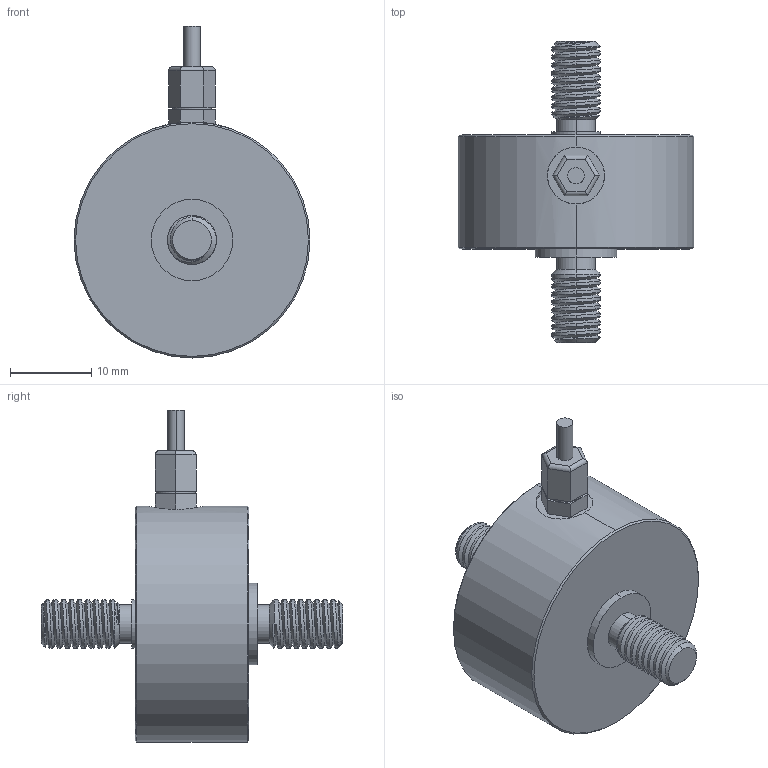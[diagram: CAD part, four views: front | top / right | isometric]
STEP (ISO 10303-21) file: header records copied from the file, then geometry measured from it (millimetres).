
FILE_DESCRIPTION (( 'STEP AP203' ), '1' );
FILE_NAME ('1-WTP208(30-100Kg).STEP', '2021-10-23T03:09:11', ( '微软用户' ), ( '微软中国' ), 'SwSTEP 2.0', 'SolidWorks 2018', '' );
FILE_SCHEMA (( 'CONFIG_CONTROL_DESIGN' ));
Length unit declared in the file: millimetre
Products named in the file (1): 1-WTP208(30-100Kg)
Bounding box: 29 x 37 x 40.8 mm (x, y, z)
Volume: 10008.1 mm3; surface area: 3350.1 mm2
Topology: 1 solids, 1 shells, 100 faces, 253 edges, 163 vertices
Faces by surface type: cylinder 57, plane 25, cone 14, bspline 4
Entity records: 5352 total; most frequent: CARTESIAN_POINT 3107, ORIENTED_EDGE 506, DIRECTION 397, EDGE_CURVE 253, VERTEX_POINT 163, AXIS2_PLACEMENT_3D 142, LINE 113, VECTOR 113
